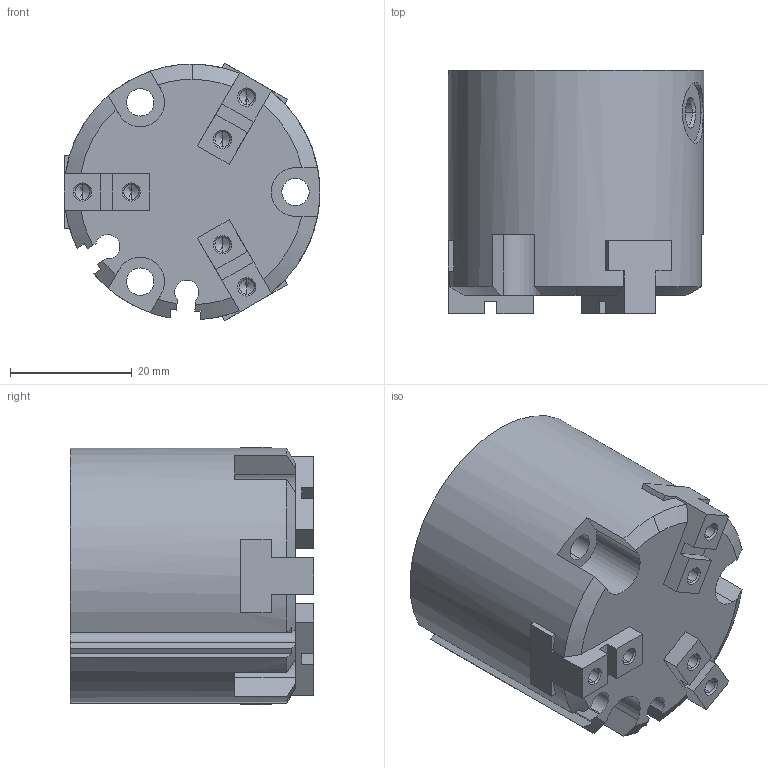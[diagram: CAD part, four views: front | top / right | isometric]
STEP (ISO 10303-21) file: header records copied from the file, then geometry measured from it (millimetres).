
FILE_DESCRIPTION (( 'STEP AP214' ), '1' );
FILE_NAME ('GMHS3-25D.STEP', '2019-11-12T01:30:36', ( '微软用户' ), ( '微软中国' ), 'SwSTEP 2.0', 'SolidWorks 2016', '' );
FILE_SCHEMA (( 'AUTOMOTIVE_DESIGN' ));
Length unit declared in the file: millimetre
Products named in the file (1): GMHS3-25D
Bounding box: 41.99 x 40 x 42.37 mm (x, y, z)
Surface area: 14533.3 mm2 (no closed solid volume)
Topology: 0 solids, 4 shells, 211 faces, 588 edges, 373 vertices
Faces by surface type: plane 102, cone 53, cylinder 50, bspline 6
Entity records: 6759 total; most frequent: CARTESIAN_POINT 1450, DIRECTION 1087, ORIENTED_EDGE 1072, EDGE_CURVE 566, VERTEX_POINT 373, LINE 367, VECTOR 367, AXIS2_PLACEMENT_3D 360
